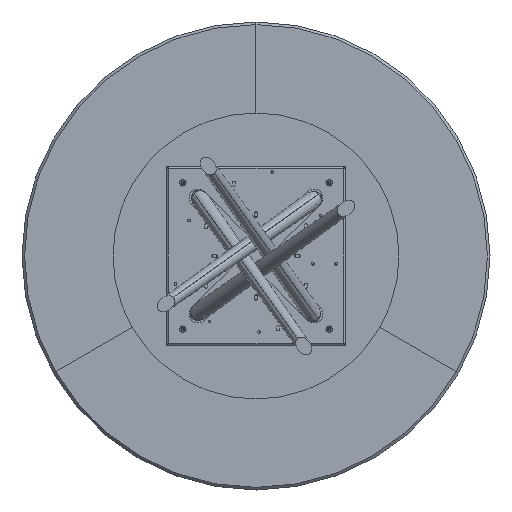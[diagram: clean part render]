
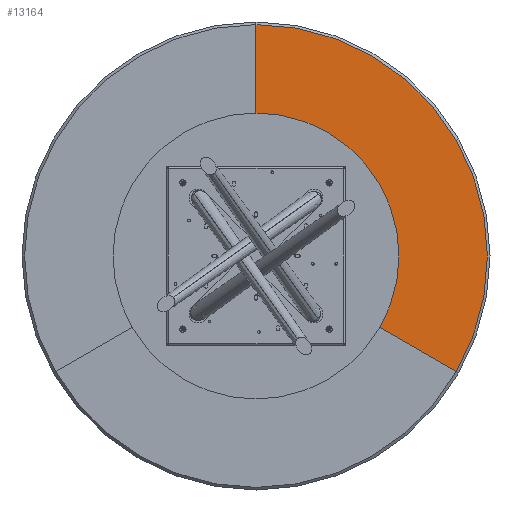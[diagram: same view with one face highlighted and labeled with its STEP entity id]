
A CAD part, front view. The second image highlights one B-rep face of the part: STEP entity #13164.
In plain terms, the highlighted planar face has unit normal (0, -1, 0).
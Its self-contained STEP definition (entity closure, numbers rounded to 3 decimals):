
#450 = EDGE_LOOP ( 'NONE', ( #9770, #17066 ) ) ;
#702 = ORIENTED_EDGE ( 'NONE', *, *, #4369, .T. ) ;
#1052 = EDGE_CURVE ( 'NONE', #4216, #11156, #18387, .T. ) ;
#2363 = AXIS2_PLACEMENT_3D ( 'NONE', #5615, #2717, #4120 ) ;
#2632 = AXIS2_PLACEMENT_3D ( 'NONE', #18272, #12595, #16943 ) ;
#2717 = DIRECTION ( 'NONE',  ( 0., -1., 0. ) ) ;
#2765 = DIRECTION ( 'NONE',  ( 0., -1., 0. ) ) ;
#2898 = CIRCLE ( 'NONE', #16610, 3.3 ) ;
#2963 = VECTOR ( 'NONE', #17538, 1000. ) ;
#3325 = DIRECTION ( 'NONE',  ( 0., -1., 0. ) ) ;
#3416 = DIRECTION ( 'NONE',  ( 0., 0., -1. ) ) ;
#3542 = DIRECTION ( 'NONE',  ( 0., 0., -1. ) ) ;
#3569 = EDGE_CURVE ( 'NONE', #11156, #4216, #14905, .T. ) ;
#3724 = CARTESIAN_POINT ( 'NONE',  ( 399.884, 0., 303.455 ) ) ;
#3785 = EDGE_CURVE ( 'NONE', #16361, #12130, #5878, .T. ) ;
#3974 = ORIENTED_EDGE ( 'NONE', *, *, #13605, .F. ) ;
#4120 = DIRECTION ( 'NONE',  ( 0., 0., -1. ) ) ;
#4196 = VERTEX_POINT ( 'NONE', #5111 ) ;
#4216 = VERTEX_POINT ( 'NONE', #17791 ) ;
#4369 = EDGE_CURVE ( 'NONE', #16361, #17386, #8311, .T. ) ;
#4489 = CARTESIAN_POINT ( 'NONE',  ( 0., 0., 0. ) ) ;
#5111 = CARTESIAN_POINT ( 'NONE',  ( 399.884, 0., 296.855 ) ) ;
#5133 = CARTESIAN_POINT ( 'NONE',  ( 0., 0., 0. ) ) ;
#5277 = DIRECTION ( 'NONE',  ( 0., -1., 0. ) ) ;
#5358 = AXIS2_PLACEMENT_3D ( 'NONE', #12383, #5277, #13776 ) ;
#5375 = CARTESIAN_POINT ( 'NONE',  ( 0., 0., 0. ) ) ;
#5615 = CARTESIAN_POINT ( 'NONE',  ( -399.884, 0., 300.155 ) ) ;
#5861 = CARTESIAN_POINT ( 'NONE',  ( -770.763, 0., 445. ) ) ;
#5878 = LINE ( 'NONE', #4489, #2963 ) ;
#6063 = EDGE_CURVE ( 'NONE', #12755, #12130, #18164, .T. ) ;
#6345 = DIRECTION ( 'NONE',  ( 0., 0., -1. ) ) ;
#6791 = FACE_BOUND ( 'NONE', #450, .T. ) ;
#6802 = ORIENTED_EDGE ( 'NONE', *, *, #10030, .T. ) ;
#7424 = ORIENTED_EDGE ( 'NONE', *, *, #9954, .F. ) ;
#7449 = CARTESIAN_POINT ( 'NONE',  ( 0., 0., 890. ) ) ;
#7600 = CARTESIAN_POINT ( 'NONE',  ( -399.884, 0., 300.155 ) ) ;
#8031 = CIRCLE ( 'NONE', #5358, 3.3 ) ;
#8311 = CIRCLE ( 'NONE', #2632, 890. ) ;
#8638 = DIRECTION ( 'NONE',  ( 0., 0., -1. ) ) ;
#9216 = FACE_BOUND ( 'NONE', #12299, .T. ) ;
#9315 = PLANE ( 'NONE',  #18179 ) ;
#9675 = CARTESIAN_POINT ( 'NONE',  ( 770.763, 0., 445. ) ) ;
#9770 = ORIENTED_EDGE ( 'NONE', *, *, #3569, .F. ) ;
#9933 = ORIENTED_EDGE ( 'NONE', *, *, #3785, .F. ) ;
#9954 = EDGE_CURVE ( 'NONE', #4196, #11389, #2898, .T. ) ;
#10030 = EDGE_CURVE ( 'NONE', #17386, #12755, #16319, .T. ) ;
#10324 = AXIS2_PLACEMENT_3D ( 'NONE', #7600, #3325, #3416 ) ;
#10692 = FACE_OUTER_BOUND ( 'NONE', #12246, .T. ) ;
#11045 = VECTOR ( 'NONE', #11059, 1000. ) ;
#11059 = DIRECTION ( 'NONE',  ( 0.866, 0., -0.5 ) ) ;
#11156 = VERTEX_POINT ( 'NONE', #17163 ) ;
#11172 = ORIENTED_EDGE ( 'NONE', *, *, #6063, .T. ) ;
#11389 = VERTEX_POINT ( 'NONE', #3724 ) ;
#12130 = VERTEX_POINT ( 'NONE', #16621 ) ;
#12246 = EDGE_LOOP ( 'NONE', ( #702, #6802, #11172, #9933 ) ) ;
#12299 = EDGE_LOOP ( 'NONE', ( #7424, #3974 ) ) ;
#12383 = CARTESIAN_POINT ( 'NONE',  ( 399.884, 0., 300.155 ) ) ;
#12595 = DIRECTION ( 'NONE',  ( 0., -1., 0. ) ) ;
#12755 = VERTEX_POINT ( 'NONE', #5861 ) ;
#13164 = ADVANCED_FACE ( 'NONE', ( #6791, #9216, #10692 ), #9315, .T. ) ;
#13605 = EDGE_CURVE ( 'NONE', #11389, #4196, #8031, .T. ) ;
#13776 = DIRECTION ( 'NONE',  ( 0., 0., -1. ) ) ;
#14837 = DIRECTION ( 'NONE',  ( 0., -1., 0. ) ) ;
#14905 = CIRCLE ( 'NONE', #2363, 3.3 ) ;
#14938 = DIRECTION ( 'NONE',  ( 0., -1., 0. ) ) ;
#16319 = CIRCLE ( 'NONE', #17809, 890. ) ;
#16361 = VERTEX_POINT ( 'NONE', #9675 ) ;
#16610 = AXIS2_PLACEMENT_3D ( 'NONE', #17911, #14938, #3542 ) ;
#16621 = CARTESIAN_POINT ( 'NONE',  ( 0., 0., 0. ) ) ;
#16943 = DIRECTION ( 'NONE',  ( 0., 0., -1. ) ) ;
#17043 = CARTESIAN_POINT ( 'NONE',  ( 0., 0., 0. ) ) ;
#17066 = ORIENTED_EDGE ( 'NONE', *, *, #1052, .F. ) ;
#17163 = CARTESIAN_POINT ( 'NONE',  ( -399.884, 0., 296.855 ) ) ;
#17386 = VERTEX_POINT ( 'NONE', #7449 ) ;
#17538 = DIRECTION ( 'NONE',  ( -0.866, 0., -0.5 ) ) ;
#17791 = CARTESIAN_POINT ( 'NONE',  ( -399.884, 0., 303.455 ) ) ;
#17809 = AXIS2_PLACEMENT_3D ( 'NONE', #5133, #14837, #6345 ) ;
#17911 = CARTESIAN_POINT ( 'NONE',  ( 399.884, 0., 300.155 ) ) ;
#18164 = LINE ( 'NONE', #5375, #11045 ) ;
#18179 = AXIS2_PLACEMENT_3D ( 'NONE', #17043, #2765, #8638 ) ;
#18272 = CARTESIAN_POINT ( 'NONE',  ( 0., 0., 0. ) ) ;
#18387 = CIRCLE ( 'NONE', #10324, 3.3 ) ;
